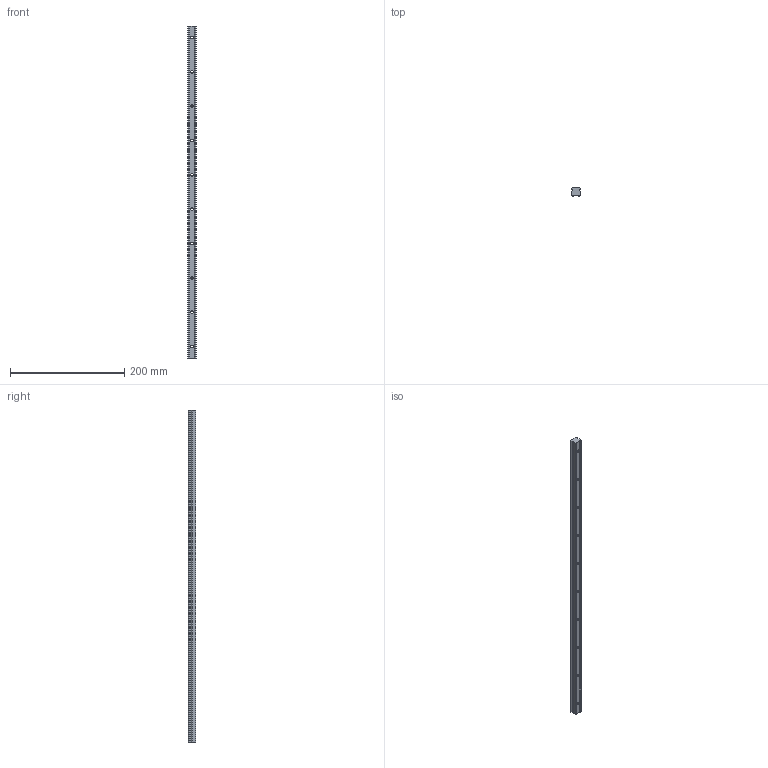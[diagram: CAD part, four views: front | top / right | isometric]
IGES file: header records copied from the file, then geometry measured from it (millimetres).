
Start section: SolidWorks IGES file using analytic representation for surfaces
Global section: file name: C:\Users\IanO\Desktop\L1016_v2\L1016.BL15_v2\L1016.BL15_v2_20190611_IGES\L1016.BL15-0580.igs; native system: SolidWorks 2017; preprocessor: SolidWorks 2017; author: IanO; date: 190612.122606; units: millimetre
Bounding box: 15 x 13 x 580 mm (x, y, z)
Surface area: 35758.1 mm2 (no closed solid volume)
Topology: 0 solids, 0 shells, 76 faces, 1592 edges, 1592 vertices
Faces by surface type: revolution 44, bspline 32
